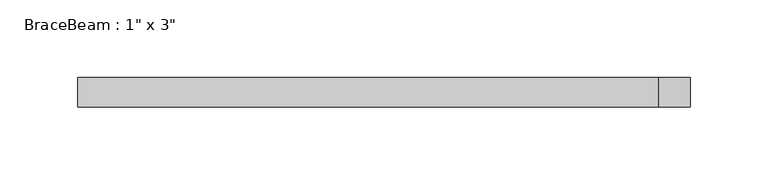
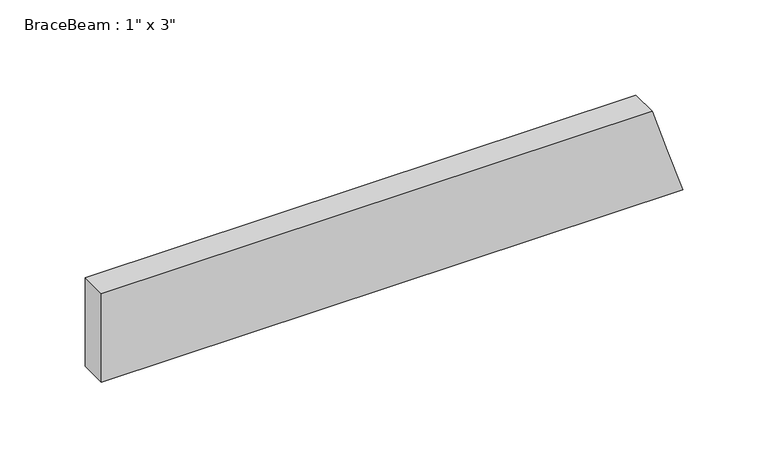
"""IFC4 building model written with IfcOpenShell, lengths in millimetres: beam geometry."""

from ifc_helpers import new_model, si_unit, origin, place, context, project, spatial, faceted_brep, source, transform, mapped, element, save


def beam_a02e4526(model_context):
    return source(origin(), model_context, "Body", "Brep", [
        faceted_brep([(-192.5994419, 9.525, -31.75), (201.3139193, 9.525, -31.75), (201.3139193, -9.525, -31.75), (-192.5994419, -9.525, -31.75), (190.9510721, -9.525, 0.0), (180.5882249, -9.525, 31.75), (-192.5994419, -9.525, 31.75), (180.5882249, 9.525, 31.75), (-192.5994419, 9.525, 31.75), (190.9510721, 9.525, 0.0)], [[[0, 1, 2, 3]], [[3, 2, 4, 5, 6]], [[6, 5, 7, 8]], [[8, 7, 9, 1, 0]], [[8, 0, 3, 6]], [[5, 4, 2, 1, 9, 7]]]),
    ])


if __name__ == "__main__":
    model = new_model("IFC4")
    model_context = context("Model", 3, world=origin())
    ifc_project = project(units=[si_unit("LENGTHUNIT", "METRE", prefix="MILLI")], contexts=[model_context])
    site = spatial("IfcSite", under=ifc_project)
    building = spatial("IfcBuilding", under=site)
    placement = place(None, origin())
    beam_shape = beam_a02e4526(model_context)
    element("IfcBeam", 1, ObjectType="BraceBeam : 1\" x 3\"", at=placement, inside=building, context=model_context, shape_type="MappedRepresentation", body=[
        mapped(beam_shape, transform((0.0, 0.0, 0.0), x_axis=(1.0, 0.0, 0.0), y_axis=(0.0, 1.0, 0.0), z_axis=(0.0, 0.0, 1.0))),
    ])
    save(model, "model.ifc")
